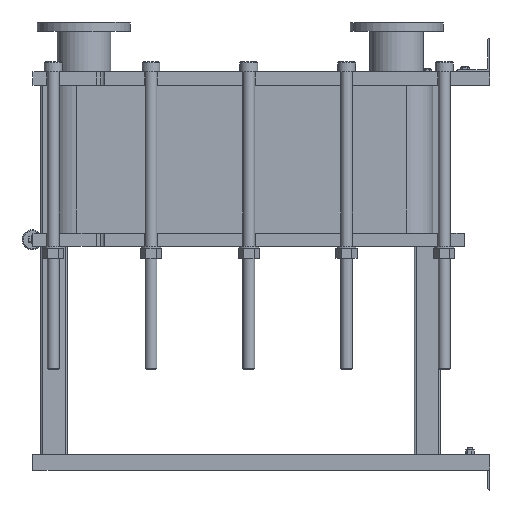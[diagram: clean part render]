
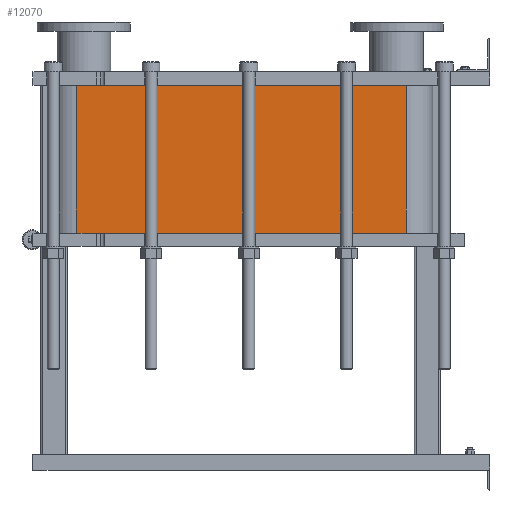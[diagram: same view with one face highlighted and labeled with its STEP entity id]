
A CAD part, left-side view. The second image highlights one B-rep face of the part: STEP entity #12070.
In plain terms, the highlighted planar face has unit normal (-1, 0, 0).
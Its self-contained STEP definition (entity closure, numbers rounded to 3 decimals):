
#1064=LINE('',#21140,#2164);
#1065=LINE('',#21144,#2165);
#1066=LINE('',#21146,#2166);
#1067=LINE('',#21147,#2167);
#2164=VECTOR('',#15790,10.);
#2165=VECTOR('',#15795,10.);
#2166=VECTOR('',#15796,10.);
#2167=VECTOR('',#15797,10.);
#3304=FACE_OUTER_BOUND('',#4091,.T.);
#4091=EDGE_LOOP('',(#9793,#9794,#9795,#9796));
#5677=VERTEX_POINT('',#21137);
#5678=VERTEX_POINT('',#21139);
#5679=VERTEX_POINT('',#21143);
#5680=VERTEX_POINT('',#21145);
#7118=EDGE_CURVE('',#5678,#5677,#1064,.T.);
#7120=EDGE_CURVE('',#5677,#5679,#1065,.T.);
#7121=EDGE_CURVE('',#5680,#5679,#1066,.T.);
#7122=EDGE_CURVE('',#5680,#5678,#1067,.T.);
#9793=ORIENTED_EDGE('',*,*,#7120,.T.);
#9794=ORIENTED_EDGE('',*,*,#7121,.F.);
#9795=ORIENTED_EDGE('',*,*,#7122,.T.);
#9796=ORIENTED_EDGE('',*,*,#7118,.T.);
#11441=PLANE('',#13191);
#12070=ADVANCED_FACE('',(#3304),#11441,.T.);
#13191=AXIS2_PLACEMENT_3D('',#21142,#15793,#15794);
#15790=DIRECTION('',(0.,0.,-1.));
#15793=DIRECTION('center_axis',(-1.,0.,0.));
#15794=DIRECTION('ref_axis',(0.,1.,0.));
#15795=DIRECTION('',(0.,-1.,0.));
#15796=DIRECTION('',(0.,0.,-1.));
#15797=DIRECTION('',(0.,1.,0.));
#21137=CARTESIAN_POINT('',(-248.152,1243.818,-445.05));
#21139=CARTESIAN_POINT('',(-248.152,1243.818,0.));
#21140=CARTESIAN_POINT('',(-248.152,1243.818,0.));
#21142=CARTESIAN_POINT('Origin',(-248.152,251.818,0.));
#21143=CARTESIAN_POINT('',(-248.152,251.818,-445.05));
#21144=CARTESIAN_POINT('',(-248.152,499.818,-445.05));
#21145=CARTESIAN_POINT('',(-248.152,251.818,0.));
#21146=CARTESIAN_POINT('',(-248.152,251.818,0.));
#21147=CARTESIAN_POINT('',(-248.152,251.818,0.));
